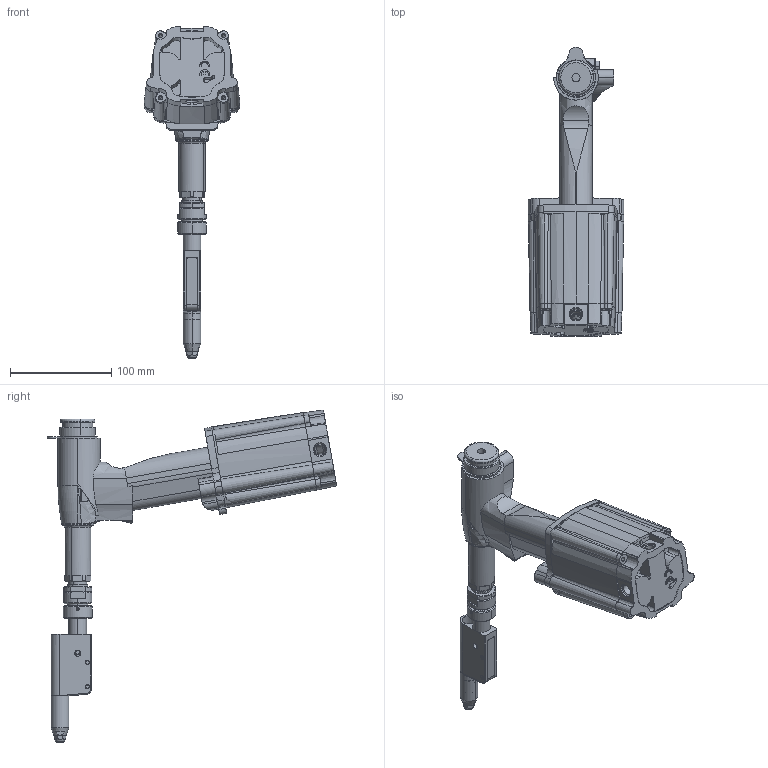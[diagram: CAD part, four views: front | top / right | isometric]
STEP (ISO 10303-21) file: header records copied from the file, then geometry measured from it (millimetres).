
FILE_DESCRIPTION (( 'STEP AP214' ), '1' );
FILE_NAME ('AR2000A-00.STEP', '2025-01-22T02:18:51', ( '' ), ( '' ), 'SwSTEP 2.0', 'SolidWorks 2024', '' );
FILE_SCHEMA (( 'AUTOMOTIVE_DESIGN' ));
Length unit declared in the file: millimetre
Products named in the file (1): AR2000A-00
Bounding box: 94 x 285.26 x 327.28 mm (x, y, z)
Volume: 684397.9 mm3; surface area: 261796.8 mm2
Topology: 34 solids, 34 shells, 1567 faces, 3928 edges, 2514 vertices
Faces by surface type: cylinder 503, plane 454, cone 376, bspline 185, torus 49
Entity records: 167754 total; most frequent: CARTESIAN_POINT 114464, ORIENTED_EDGE 7840, DIRECTION 7546, EDGE_CURVE 3920, AXIS2_PLACEMENT_3D 3011, VERTEX_POINT 2514, EDGE_LOOP 1756, CIRCLE 1628
